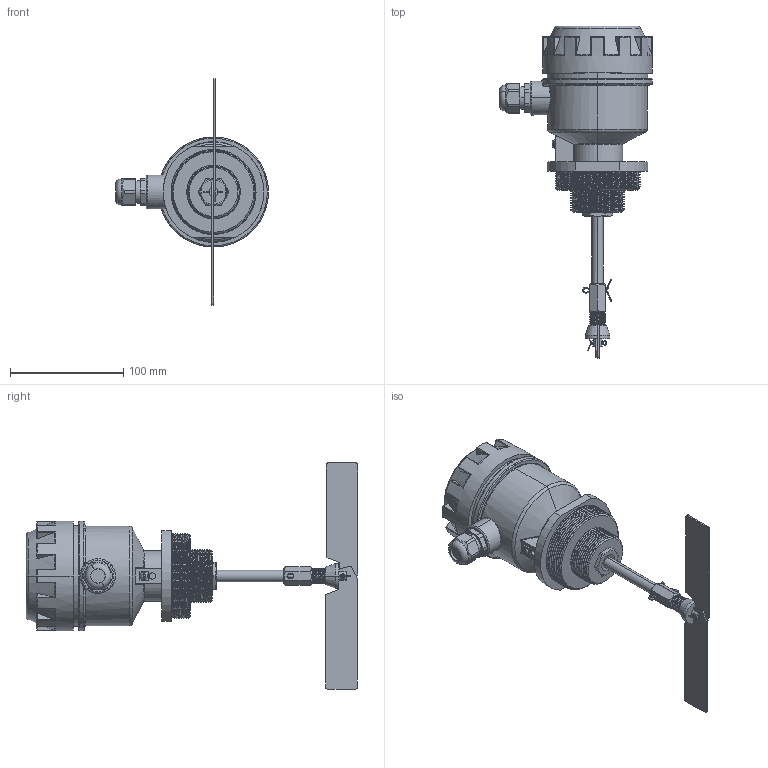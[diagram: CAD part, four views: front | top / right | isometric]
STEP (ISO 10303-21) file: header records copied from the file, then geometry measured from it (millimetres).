
FILE_DESCRIPTION (( 'STEP AP214' ), '1' );
FILE_NAME ('IL-LDA-N - ñêëàäíàÿ ëîïàñòü - ð.STEP', '2020-12-29T11:28:32', ( '' ), ( '' ), 'SwSTEP 2.0', 'SolidWorks 2020', '' );
FILE_SCHEMA (( 'AUTOMOTIVE_DESIGN' ));
Length unit declared in the file: millimetre
Products named in the file (10): Êðûøêà; Øïèëüêà 2ìì; Øïèëüêà (2); Êîðïóñ ñêëàäíàÿ ð; 幄鼭歑; Ïðóæèíà; IL-LDA-N - ñêëàäíàÿ ëîïàñòü - ð; 扻錝僝鍧; Ëîïàñòü ñêëàäíàÿ
Assembly tree (9 placements, depth 3):
  IL-LDA-N - ñêëàäíàÿ ëîïàñòü - ð
    Êîðïóñ ñêëàäíàÿ ð
    扻錝僝鍧
    Êðûøêà
    幄鼭歑
    Ëîïàñòü ñêëàäíàÿ
      Ëîïàñòü ñêëàäíàÿ
      Øïèëüêà 2ìì
      Ïðóæèíà
    Øïèëüêà (2)
Bounding box: 135 x 293 x 200 mm (x, y, z)
Volume: 674698.8 mm3; surface area: 115399.4 mm2
Topology: 8 solids, 8 shells, 568 faces, 1391 edges, 838 vertices
Faces by surface type: cylinder 232, plane 147, torus 96, cone 34, sphere 32, bspline 27
Entity records: 29991 total; most frequent: CARTESIAN_POINT 16654, DIRECTION 2772, ORIENTED_EDGE 2742, EDGE_CURVE 1371, AXIS2_PLACEMENT_3D 1143, VERTEX_POINT 830, EDGE_LOOP 591, CIRCLE 589
